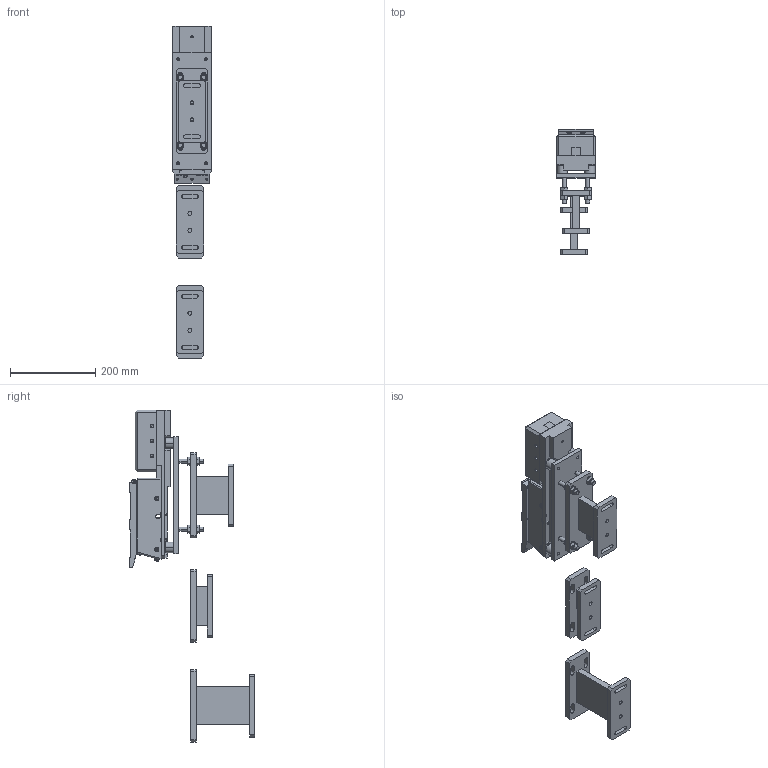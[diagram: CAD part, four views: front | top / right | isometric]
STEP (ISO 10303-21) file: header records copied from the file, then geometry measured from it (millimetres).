
FILE_DESCRIPTION (( 'STEP AP203' ), '1' );
FILE_NAME ('ZD 200 眻盄 盓殤恁饜01.STEP', '2025-06-01T05:08:43', ( '' ), ( '' ), 'SwSTEP 2.0', 'SolidWorks 2022', '' );
FILE_SCHEMA (( 'CONFIG_CONTROL_DESIGN' ));
Length unit declared in the file: millimetre
Products named in the file (1): ZD 200  眻盄 盓殤恁饜01
Bounding box: 90 x 295 x 780.34 mm (x, y, z)
Volume: 3539344.4 mm3; surface area: 577954.6 mm2
Topology: 45 solids, 53 shells, 1093 faces, 2567 edges, 1614 vertices
Faces by surface type: plane 617, cylinder 296, cone 142, bspline 26, torus 12
Entity records: 34174 total; most frequent: CARTESIAN_POINT 8658, DIRECTION 5304, ORIENTED_EDGE 5106, EDGE_CURVE 2553, AXIS2_PLACEMENT_3D 1863, VERTEX_POINT 1614, LINE 1578, VECTOR 1578
